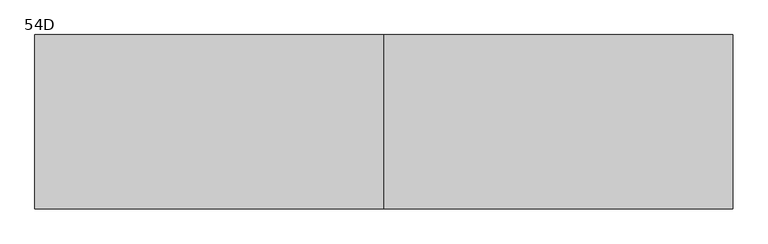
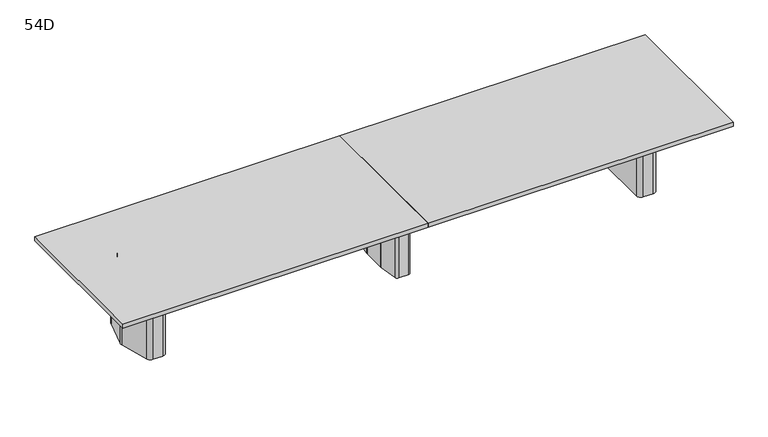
"""IFC4 building model written with IfcOpenShell, lengths in millimetres: furniture geometry, Coalesse_AM_Table_Conference_ETable2_Rectangular_18ft_ThreeBase : 54D."""

from ifc_helpers import new_model, si_unit, frame, origin, place, context, project, spatial, polyline, circle_curve, outline, extrude, source, transform, mapped, element, save
from ifc_brep_helpers import plane_surface, cylinder_surface, revolved_surface, advanced_brep


def furniture_54d_28b8f98d(model_context):
    return source(origin(), model_context, "Body", "SolidModel", [
        advanced_brep(
        [(35.71875, 206.375, 3.175), (10.31875, 231.775, 3.175), (-10.31875, 231.775, 3.175), (-35.71875, 206.375, 3.175), (-35.71875, -206.375, 3.175), (-10.31875, -231.775, 3.175), (10.31875, -231.775, 3.175), (35.71875, -206.375, 3.175), (-61.11875, 206.375, 0.0), (-10.31875, 257.175, 0.0), (10.31875, 257.175, 0.0), (61.11875, 206.375, 0.0), (61.11875, -206.375, 0.0), (10.31875, -257.175, 0.0), (-10.31875, -257.175, 0.0), (-61.11875, -206.375, 0.0), (-61.11875, -206.375, 3.175), (-61.11875, 206.375, 3.175), (-10.31875, -257.175, 3.175), (10.31875, -257.175, 3.175), (61.11875, -206.375, 3.175), (61.11875, 206.375, 3.175), (10.31875, 257.175, 3.175), (-10.31875, 257.175, 3.175), (-92.6215974, 106.2976848, 698.5), (-92.86875, 102.7629613, 698.5), (-92.86875, -102.7629613, 698.5), (-92.6215974, -106.2976848, 698.5), (-67.7988375, -282.9347235, 698.5), (-42.6459902, -304.8, 698.5), (42.6459902, -304.8, 698.5), (67.7988375, -282.9347235, 698.5), (92.6215974, -106.2976848, 698.5), (92.86875, -102.7629613, 698.5), (92.86875, 102.7629613, 698.5), (92.6215974, 106.2976848, 698.5), (67.7988375, 282.9347235, 698.5), (42.6459902, 304.8, 698.5), (-42.6459902, 304.8, 698.5), (-67.7988375, 282.9347235, 698.5), (10.31875, 231.775, 698.5), (35.71875, 206.375, 698.5), (35.71875, -206.375, 698.5), (10.31875, -231.775, 698.5), (-10.31875, -231.775, 698.5), (-35.71875, -206.375, 698.5), (-35.71875, 206.375, 698.5), (-10.31875, 231.775, 698.5), (-92.6215974, 106.2976848, 3.175), (-67.7988375, 282.9347235, 3.175), (-42.6459902, 304.8, 3.175), (42.6459902, 304.8, 3.175), (67.7988375, 282.9347235, 3.175), (92.6215974, 106.2976848, 3.175), (92.86875, 102.7629613, 3.175), (92.86875, -102.7629613, 3.175), (92.6215974, -106.2976848, 3.175), (67.7988375, -282.9347235, 3.175), (42.6459902, -304.8, 3.175), (-42.6459902, -304.8, 3.175), (-67.7988375, -282.9347235, 3.175), (-92.6215974, -106.2976848, 3.175), (-92.86875, -102.7629613, 3.175), (-92.86875, 102.7629613, 3.175)],
        [
            (0, 1, circle_curve(frame((10.31875, 206.375, 3.175), z_axis=(0.0, 0.0, 1.0), x_axis=(1.0, 0.0, 0.0)), 25.4)),
            (1, 2),
            (2, 3, circle_curve(frame((-10.31875, 206.375, 3.175), z_axis=(0.0, 0.0, 1.0), x_axis=(1.0, 0.0, 0.0)), 25.4)),
            (3, 4),
            (4, 5, circle_curve(frame((-10.31875, -206.375, 3.175), z_axis=(0.0, 0.0, 1.0), x_axis=(1.0, 0.0, 0.0)), 25.4)),
            (5, 6),
            (6, 7, circle_curve(frame((10.31875, -206.375, 3.175), z_axis=(0.0, 0.0, 1.0), x_axis=(1.0, 0.0, 0.0)), 25.4)),
            (7, 0),
            (8, 9, circle_curve(frame((-10.31875, 206.375, 0.0), z_axis=(0.0, 0.0, -1.0), x_axis=(1.0, 0.0, 0.0)), 50.8)),
            (9, 10),
            (10, 11, circle_curve(frame((10.31875, 206.375, 0.0), z_axis=(0.0, 0.0, -1.0), x_axis=(1.0, 0.0, 0.0)), 50.8)),
            (11, 12),
            (12, 13, circle_curve(frame((10.31875, -206.375, 0.0), z_axis=(0.0, 0.0, -1.0), x_axis=(1.0, 0.0, 0.0)), 50.8)),
            (13, 14),
            (14, 15, circle_curve(frame((-10.31875, -206.375, 0.0), z_axis=(0.0, 0.0, -1.0), x_axis=(1.0, 0.0, 0.0)), 50.8)),
            (15, 8),
            (15, 16),
            (16, 17),
            (17, 8),
            (14, 18),
            (18, 16, circle_curve(frame((-10.31875, -206.375, 3.175), z_axis=(0.0, 0.0, -1.0), x_axis=(1.0, 0.0, 0.0)), 50.8)),
            (13, 19),
            (19, 18),
            (12, 20),
            (20, 19, circle_curve(frame((10.31875, -206.375, 3.175), z_axis=(0.0, 0.0, -1.0), x_axis=(1.0, 0.0, 0.0)), 50.8)),
            (11, 21),
            (21, 20),
            (10, 22),
            (22, 21, circle_curve(frame((10.31875, 206.375, 3.175), z_axis=(0.0, 0.0, -1.0), x_axis=(1.0, 0.0, 0.0)), 50.8)),
            (9, 23),
            (23, 22),
            (17, 23, circle_curve(frame((-10.31875, 206.375, 3.175), z_axis=(0.0, 0.0, -1.0), x_axis=(1.0, 0.0, 0.0)), 50.8)),
            (24, 25, circle_curve(frame((-67.46875, 102.7629613, 698.5), z_axis=(0.0, 0.0, 1.0), x_axis=(1.0, 0.0, 0.0)), 25.4)),
            (25, 26),
            (26, 27, circle_curve(frame((-67.46875, -102.7629613, 698.5), z_axis=(0.0, 0.0, 1.0), x_axis=(1.0, 0.0, 0.0)), 25.4)),
            (27, 28),
            (28, 29, circle_curve(frame((-42.6459902, -279.4, 698.5), z_axis=(0.0, 0.0, 1.0), x_axis=(1.0, 0.0, 0.0)), 25.4)),
            (29, 30),
            (30, 31, circle_curve(frame((42.6459902, -279.4, 698.5), z_axis=(0.0, 0.0, 1.0), x_axis=(1.0, 0.0, 0.0)), 25.4)),
            (31, 32),
            (32, 33, circle_curve(frame((67.46875, -102.7629613, 698.5), z_axis=(0.0, 0.0, 1.0), x_axis=(1.0, 0.0, 0.0)), 25.4)),
            (33, 34),
            (34, 35, circle_curve(frame((67.46875, 102.7629613, 698.5), z_axis=(0.0, 0.0, 1.0), x_axis=(1.0, 0.0, 0.0)), 25.4)),
            (35, 36),
            (36, 37, circle_curve(frame((42.6459902, 279.4, 698.5), z_axis=(0.0, 0.0, 1.0), x_axis=(1.0, 0.0, 0.0)), 25.4)),
            (37, 38),
            (38, 39, circle_curve(frame((-42.6459902, 279.4, 698.5), z_axis=(0.0, 0.0, 1.0), x_axis=(1.0, 0.0, 0.0)), 25.4)),
            (39, 24),
            (40, 41, circle_curve(frame((10.31875, 206.375, 698.5), z_axis=(0.0, 0.0, -1.0), x_axis=(1.0, 0.0, 0.0)), 25.4)),
            (41, 42),
            (42, 43, circle_curve(frame((10.31875, -206.375, 698.5), z_axis=(0.0, 0.0, -1.0), x_axis=(1.0, 0.0, 0.0)), 25.4)),
            (43, 44),
            (44, 45, circle_curve(frame((-10.31875, -206.375, 698.5), z_axis=(0.0, 0.0, -1.0), x_axis=(1.0, 0.0, 0.0)), 25.4)),
            (45, 46),
            (46, 47, circle_curve(frame((-10.31875, 206.375, 698.5), z_axis=(0.0, 0.0, -1.0), x_axis=(1.0, 0.0, 0.0)), 25.4)),
            (47, 40),
            (48, 49),
            (49, 50, circle_curve(frame((-42.6459902, 279.4, 3.175), z_axis=(0.0, 0.0, -1.0), x_axis=(1.0, 0.0, 0.0)), 25.4)),
            (50, 51),
            (51, 52, circle_curve(frame((42.6459902, 279.4, 3.175), z_axis=(0.0, 0.0, -1.0), x_axis=(1.0, 0.0, 0.0)), 25.4)),
            (52, 53),
            (53, 54, circle_curve(frame((67.46875, 102.7629613, 3.175), z_axis=(0.0, 0.0, -1.0), x_axis=(1.0, 0.0, 0.0)), 25.4)),
            (54, 55),
            (55, 56, circle_curve(frame((67.46875, -102.7629613, 3.175), z_axis=(0.0, 0.0, -1.0), x_axis=(1.0, 0.0, 0.0)), 25.4)),
            (56, 57),
            (57, 58, circle_curve(frame((42.6459902, -279.4, 3.175), z_axis=(0.0, 0.0, -1.0), x_axis=(1.0, 0.0, 0.0)), 25.4)),
            (58, 59),
            (59, 60, circle_curve(frame((-42.6459902, -279.4, 3.175), z_axis=(0.0, 0.0, -1.0), x_axis=(1.0, 0.0, 0.0)), 25.4)),
            (60, 61),
            (61, 62, circle_curve(frame((-67.46875, -102.7629613, 3.175), z_axis=(0.0, 0.0, -1.0), x_axis=(1.0, 0.0, 0.0)), 25.4)),
            (62, 63),
            (63, 48, circle_curve(frame((-67.46875, 102.7629613, 3.175), z_axis=(0.0, 0.0, -1.0), x_axis=(1.0, 0.0, 0.0)), 25.4)),
            (24, 48),
            (63, 25),
            (62, 26),
            (61, 27),
            (60, 28),
            (59, 29),
            (58, 30),
            (57, 31),
            (56, 32),
            (55, 33),
            (54, 34),
            (53, 35),
            (52, 36),
            (51, 37),
            (50, 38),
            (49, 39),
            (40, 1),
            (0, 41),
            (7, 42),
            (6, 43),
            (5, 44),
            (4, 45),
            (3, 46),
            (2, 47),
        ],
        [
            plane_surface(frame((-61.11875, -206.375, 3.175), z_axis=(0.0, 0.0, 1.0), x_axis=(0.0, -1.0, 0.0))),
            plane_surface(frame((-61.11875, -206.375, 0.0), z_axis=(0.0, 0.0, -1.0), x_axis=(0.0, 1.0, 0.0))),
            plane_surface(frame((-61.11875, 206.375, 3.175), z_axis=(-1.0, 0.0, 0.0), x_axis=(0.0, 0.0, -1.0))),
            cylinder_surface(frame((-10.31875, -206.375, 0.0), z_axis=(0.0, 0.0, 1.0), x_axis=(1.0, 0.0, 0.0)), 50.8),
            plane_surface(frame((-10.31875, -257.175, 3.175), z_axis=(0.0, -1.0, 0.0), x_axis=(0.0, 0.0, -1.0))),
            cylinder_surface(frame((10.31875, -206.375, 0.0), z_axis=(0.0, 0.0, 1.0), x_axis=(1.0, 0.0, 0.0)), 50.8),
            plane_surface(frame((61.11875, -206.375, 3.175), z_axis=(1.0, 0.0, 0.0), x_axis=(0.0, 0.0, -1.0))),
            cylinder_surface(frame((10.31875, 206.375, 0.0), z_axis=(0.0, 0.0, 1.0), x_axis=(1.0, 0.0, 0.0)), 50.8),
            plane_surface(frame((10.31875, 257.175, 3.175), z_axis=(0.0, 1.0, 0.0), x_axis=(0.0, 0.0, -1.0))),
            cylinder_surface(frame((-10.31875, 206.375, 0.0), z_axis=(0.0, 0.0, 1.0), x_axis=(1.0, 0.0, 0.0)), 50.8),
            plane_surface(frame((-42.06875, 102.7629613, 698.5), z_axis=(0.0, 0.0, 1.0), x_axis=(0.0, 1.0, 0.0))),
            plane_surface(frame((-42.06875, 102.7629613, 3.175), z_axis=(0.0, 0.0, -1.0), x_axis=(0.0, -1.0, 0.0))),
            cylinder_surface(frame((-67.46875, 102.7629613, 3.175), z_axis=(0.0, 0.0, 1.0), x_axis=(1.0, 0.0, 0.0)), 25.4),
            plane_surface(frame((-92.86875, 102.7629613, 698.5), z_axis=(-1.0, 0.0, 0.0), x_axis=(0.0, 0.0, -1.0))),
            cylinder_surface(frame((-67.46875, -102.7629613, 3.175), z_axis=(0.0, 0.0, 1.0), x_axis=(1.0, 0.0, 0.0)), 25.4),
            plane_surface(frame((-92.6215974, -106.2976848, 698.5), z_axis=(-0.9902695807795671, -0.13916234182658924, 0.0), x_axis=(0.0, 0.0, -1.0))),
            cylinder_surface(frame((-42.6459902, -279.4, 3.175), z_axis=(0.0, 0.0, 1.0), x_axis=(1.0, 0.0, 0.0)), 25.4),
            plane_surface(frame((-42.6459902, -304.8, 698.5), z_axis=(0.0, -1.0, 0.0), x_axis=(0.0, 0.0, -1.0))),
            cylinder_surface(frame((42.6459902, -279.4, 3.175), z_axis=(0.0, 0.0, 1.0), x_axis=(1.0, 0.0, 0.0)), 25.4),
            plane_surface(frame((67.7988375, -282.9347235, 698.5), z_axis=(0.9902695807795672, -0.13916234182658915, 0.0), x_axis=(0.0, 0.0, -1.0))),
            cylinder_surface(frame((67.46875, -102.7629613, 3.175), z_axis=(0.0, 0.0, 1.0), x_axis=(1.0, 0.0, 0.0)), 25.4),
            plane_surface(frame((92.86875, -102.7629613, 698.5), z_axis=(1.0, 0.0, 0.0), x_axis=(0.0, 0.0, -1.0))),
            cylinder_surface(frame((67.46875, 102.7629613, 3.175), z_axis=(0.0, 0.0, 1.0), x_axis=(1.0, 0.0, 0.0)), 25.4),
            plane_surface(frame((92.6215974, 106.2976848, 698.5), z_axis=(0.9902695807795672, 0.1391623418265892, 0.0), x_axis=(0.0, 0.0, -1.0))),
            cylinder_surface(frame((42.6459902, 279.4, 3.175), z_axis=(0.0, 0.0, 1.0), x_axis=(1.0, 0.0, 0.0)), 25.4),
            plane_surface(frame((42.6459902, 304.8, 698.5), z_axis=(0.0, 1.0, 0.0), x_axis=(0.0, 0.0, -1.0))),
            cylinder_surface(frame((-42.6459902, 279.4, 3.175), z_axis=(0.0, 0.0, 1.0), x_axis=(1.0, 0.0, 0.0)), 25.4),
            plane_surface(frame((-67.7988375, 282.9347235, 698.5), z_axis=(-0.9902695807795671, 0.13916234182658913, 0.0), x_axis=(0.0, 0.0, -1.0))),
            revolved_surface(polyline([(35.71875, 206.375, 3.175), (35.71875, 206.375, 698.5)]), (10.31875, 206.375, 0.0), (0.0, 0.0, -1.0)),
            plane_surface(frame((35.71875, 206.375, 698.5), z_axis=(-1.0, 0.0, 0.0), x_axis=(0.0, 0.0, -1.0))),
            revolved_surface(polyline([(35.71875, -206.375, 3.175), (35.71875, -206.375, 698.5)]), (10.31875, -206.375, 0.0), (0.0, 0.0, -1.0)),
            plane_surface(frame((10.31875, -231.775, 698.5), z_axis=(0.0, 1.0, 0.0), x_axis=(0.0, 0.0, -1.0))),
            revolved_surface(polyline([(15.081249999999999, -206.375, 3.175), (15.081249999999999, -206.375, 698.5)]), (-10.31875, -206.375, 0.0), (0.0, 0.0, -1.0)),
            plane_surface(frame((-35.71875, -206.375, 698.5), z_axis=(1.0, 0.0, 0.0), x_axis=(0.0, 0.0, -1.0))),
            revolved_surface(polyline([(15.081249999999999, 206.375, 3.175), (15.081249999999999, 206.375, 698.5)]), (-10.31875, 206.375, 0.0), (0.0, 0.0, -1.0)),
            plane_surface(frame((-10.31875, 231.775, 698.5), z_axis=(0.0, -1.0, 0.0), x_axis=(0.0, 0.0, -1.0))),
        ],
        [
            (0, [[1, 2, 3, 4, 5, 6, 7, 8]]),
            (1, [[9, 10, 11, 12, 13, 14, 15, 16]]),
            (2, [[-16, 17, 18, 19]]),
            (3, [[-15, 20, 21, -17]]),
            (4, [[-14, 22, 23, -20]]),
            (5, [[-13, 24, 25, -22]]),
            (6, [[-12, 26, 27, -24]]),
            (7, [[-11, 28, 29, -26]]),
            (8, [[-10, 30, 31, -28]]),
            (9, [[-9, -19, 32, -30]]),
            (10, [[33, 34, 35, 36, 37, 38, 39, 40, 41, 42, 43, 44, 45, 46, 47, 48], [49, 50, 51, 52, 53, 54, 55, 56]]),
            (11, [[57, 58, 59, 60, 61, 62, 63, 64, 65, 66, 67, 68, 69, 70, 71, 72], [-18, -21, -23, -25, -27, -29, -31, -32]]),
            (12, [[-33, 73, -72, 74]]),
            (13, [[-34, -74, -71, 75]]),
            (14, [[-35, -75, -70, 76]]),
            (15, [[-36, -76, -69, 77]]),
            (16, [[-37, -77, -68, 78]]),
            (17, [[-38, -78, -67, 79]]),
            (18, [[-39, -79, -66, 80]]),
            (19, [[-40, -80, -65, 81]]),
            (20, [[-41, -81, -64, 82]]),
            (21, [[-42, -82, -63, 83]]),
            (22, [[-43, -83, -62, 84]]),
            (23, [[-44, -84, -61, 85]]),
            (24, [[-45, -85, -60, 86]]),
            (25, [[-46, -86, -59, 87]]),
            (26, [[-47, -87, -58, 88]]),
            (27, [[-48, -88, -57, -73]]),
            (28, [[-49, 89, -1, 90]]),
            (29, [[-50, -90, -8, 91]]),
            (30, [[-51, -91, -7, 92]]),
            (31, [[-52, -92, -6, 93]]),
            (32, [[-53, -93, -5, 94]]),
            (33, [[-54, -94, -4, 95]]),
            (34, [[-55, -95, -3, 96]]),
            (35, [[-56, -96, -2, -89]]),
        ],
    ),
        advanced_brep(
        [(2284.624548, 274.2093613, 698.5), (2244.7579246, 304.8, 698.5), (2155.825, 304.8, 698.5), (2114.55, 263.525, 698.5), (2114.55, -263.525, 698.5), (2155.825, -304.8, 698.5), (2244.7579246, -304.8, 698.5), (2284.624548, -274.2093613, 698.5), (2355.2503901, -10.6333708, 698.5), (2355.2503901, 10.6333708, 698.5), (2152.65, -206.375, 698.5), (2152.65, 206.375, 698.5), (2178.05, 231.775, 698.5), (2237.0608422, 231.775, 698.5), (2261.595338, 212.9490792, 698.5), (2300.2875, 68.54974, 698.5), (2300.2875, -68.54974, 698.5), (2261.595338, -212.9490792, 698.5), (2237.0608422, -231.775, 698.5), (2178.05, -231.775, 698.5), (2284.624548, 274.2093613, 3.175), (2355.2503901, 10.6333708, 3.175), (2355.2503901, -10.6333708, 3.175), (2284.624548, -274.2093613, 3.175), (2244.7579246, -304.8, 3.175), (2155.825, -304.8, 3.175), (2114.55, -263.525, 3.175), (2114.55, 263.525, 3.175), (2155.825, 304.8, 3.175), (2244.7579246, 304.8, 3.175), (2273.8625859, 216.2361187, 3.175), (2237.0608422, 244.475, 3.175), (2178.05, 244.475, 3.175), (2139.95, 206.375, 3.175), (2139.95, -206.375, 3.175), (2178.05, -244.475, 3.175), (2237.0608422, -244.475, 3.175), (2273.8625859, -216.2361187, 3.175), (2312.9875, -70.2217466, 3.175), (2312.9875, 70.2217466, 3.175), (2178.05, -231.775, 3.175), (2152.65, -206.375, 3.175), (2237.0608422, -231.775, 3.175), (2261.595338, -212.9490792, 3.175), (2300.2875, -68.54974, 3.175), (2300.2875, 68.54974, 3.175), (2261.595338, 212.9490792, 3.175), (2237.0608422, 231.775, 3.175), (2178.05, 231.775, 3.175), (2152.65, 206.375, 3.175), (2273.8625859, 216.2361187, 0.0), (2312.9875, 70.2217466, 0.0), (2312.9875, -70.2217466, 0.0), (2273.8625859, -216.2361187, 0.0), (2237.0608422, -244.475, 0.0), (2178.05, -244.475, 0.0), (2139.95, -206.375, 0.0), (2139.95, 206.375, 0.0), (2178.05, 244.475, 0.0), (2237.0608422, 244.475, 0.0)],
        [
            (0, 1, circle_curve(frame((2244.7579246, 263.5270004, 698.5), z_axis=(0.0, 0.0, 1.0), x_axis=(-1.0, 0.0, 0.0)), 41.2729996)),
            (1, 2),
            (2, 3, circle_curve(frame((2155.825, 263.525, 698.5), z_axis=(0.0, 0.0, 1.0), x_axis=(-1.0, 0.0, 0.0)), 41.275)),
            (3, 4),
            (4, 5, circle_curve(frame((2155.825, -263.525, 698.5), z_axis=(0.0, 0.0, 1.0), x_axis=(-1.0, 0.0, 0.0)), 41.275)),
            (5, 6),
            (6, 7, circle_curve(frame((2244.7579246, -263.5270004, 698.5), z_axis=(0.0, 0.0, 1.0), x_axis=(-1.0, 0.0, 0.0)), 41.2729996)),
            (7, 8),
            (8, 9, circle_curve(frame((2315.5665979, 0.0, 698.5), z_axis=(0.0, 0.0, 1.0), x_axis=(-1.0, 0.0, 0.0)), 41.0837187)),
            (9, 0),
            (10, 11),
            (11, 12, circle_curve(frame((2178.05, 206.375, 698.5), z_axis=(0.0, 0.0, -1.0), x_axis=(-1.0, 0.0, 0.0)), 25.4)),
            (12, 13),
            (13, 14, circle_curve(frame((2237.0608422, 206.375, 698.5), z_axis=(0.0, 0.0, -1.0), x_axis=(-1.0, 0.0, 0.0)), 25.4)),
            (14, 15),
            (15, 16),
            (16, 17),
            (17, 18, circle_curve(frame((2237.0608422, -206.375, 698.5), z_axis=(0.0, 0.0, -1.0), x_axis=(-1.0, 0.0, 0.0)), 25.4)),
            (18, 19),
            (19, 10, circle_curve(frame((2178.05, -206.375, 698.5), z_axis=(0.0, 0.0, -1.0), x_axis=(-1.0, 0.0, 0.0)), 25.4)),
            (20, 21),
            (21, 22, circle_curve(frame((2315.5665979, 0.0, 3.175), z_axis=(0.0, 0.0, -1.0), x_axis=(-1.0, 0.0, 0.0)), 41.0837187)),
            (22, 23),
            (23, 24, circle_curve(frame((2244.7579246, -263.5270004, 3.175), z_axis=(0.0, 0.0, -1.0), x_axis=(-1.0, 0.0, 0.0)), 41.2729996)),
            (24, 25),
            (25, 26, circle_curve(frame((2155.825, -263.525, 3.175), z_axis=(0.0, 0.0, -1.0), x_axis=(-1.0, 0.0, 0.0)), 41.275)),
            (26, 27),
            (27, 28, circle_curve(frame((2155.825, 263.525, 3.175), z_axis=(0.0, 0.0, -1.0), x_axis=(-1.0, 0.0, 0.0)), 41.275)),
            (28, 29),
            (29, 20, circle_curve(frame((2244.7579246, 263.5270004, 3.175), z_axis=(0.0, 0.0, -1.0), x_axis=(-1.0, 0.0, 0.0)), 41.2729996)),
            (30, 31, circle_curve(frame((2237.0608422, 206.375, 3.175), z_axis=(0.0, 0.0, 1.0), x_axis=(-1.0, 0.0, 0.0)), 38.1)),
            (31, 32),
            (32, 33, circle_curve(frame((2178.05, 206.375, 3.175), z_axis=(0.0, 0.0, 1.0), x_axis=(-1.0, 0.0, 0.0)), 38.1)),
            (33, 34),
            (34, 35, circle_curve(frame((2178.05, -206.375, 3.175), z_axis=(0.0, 0.0, 1.0), x_axis=(-1.0, 0.0, 0.0)), 38.1)),
            (35, 36),
            (36, 37, circle_curve(frame((2237.0608422, -206.375, 3.175), z_axis=(0.0, 0.0, 1.0), x_axis=(-1.0, 0.0, 0.0)), 38.1)),
            (37, 38),
            (38, 39),
            (39, 30),
            (9, 21),
            (20, 0),
            (8, 22),
            (7, 23),
            (6, 24),
            (5, 25),
            (4, 26),
            (3, 27),
            (2, 28),
            (1, 29),
            (19, 40),
            (40, 41, circle_curve(frame((2178.05, -206.375, 3.175), z_axis=(0.0, 0.0, -1.0), x_axis=(-1.0, 0.0, 0.0)), 25.4)),
            (41, 10),
            (18, 42),
            (42, 40),
            (17, 43),
            (43, 42, circle_curve(frame((2237.0608422, -206.375, 3.175), z_axis=(0.0, 0.0, -1.0), x_axis=(-1.0, 0.0, 0.0)), 25.4)),
            (16, 44),
            (44, 43),
            (15, 45),
            (45, 44),
            (14, 46),
            (46, 45),
            (13, 47),
            (47, 46, circle_curve(frame((2237.0608422, 206.375, 3.175), z_axis=(0.0, 0.0, -1.0), x_axis=(-1.0, 0.0, 0.0)), 25.4)),
            (12, 48),
            (48, 47),
            (11, 49),
            (49, 48, circle_curve(frame((2178.05, 206.375, 3.175), z_axis=(0.0, 0.0, -1.0), x_axis=(-1.0, 0.0, 0.0)), 25.4)),
            (41, 49),
            (50, 51),
            (51, 52),
            (52, 53),
            (53, 54, circle_curve(frame((2237.0608422, -206.375, 0.0), z_axis=(0.0, 0.0, -1.0), x_axis=(-1.0, 0.0, 0.0)), 38.1)),
            (54, 55),
            (55, 56, circle_curve(frame((2178.05, -206.375, 0.0), z_axis=(0.0, 0.0, -1.0), x_axis=(-1.0, 0.0, 0.0)), 38.1)),
            (56, 57),
            (57, 58, circle_curve(frame((2178.05, 206.375, 0.0), z_axis=(0.0, 0.0, -1.0), x_axis=(-1.0, 0.0, 0.0)), 38.1)),
            (58, 59),
            (59, 50, circle_curve(frame((2237.0608422, 206.375, 0.0), z_axis=(0.0, 0.0, -1.0), x_axis=(-1.0, 0.0, 0.0)), 38.1)),
            (50, 30),
            (39, 51),
            (38, 52),
            (37, 53),
            (36, 54),
            (35, 55),
            (34, 56),
            (33, 57),
            (32, 58),
            (31, 59),
        ],
        [
            plane_surface(frame((2355.2374275, 10.6817473, 698.5), z_axis=(0.0, 0.0, 1.0000000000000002), x_axis=(0.25882201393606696, -0.9659250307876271, 0.0))),
            plane_surface(frame((2355.2374275, 10.6817473, 3.175), z_axis=(0.0, 0.0, -1.0000000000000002), x_axis=(-0.25882201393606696, 0.9659250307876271, 0.0))),
            plane_surface(frame((2284.624548, 274.2093613, 698.5), z_axis=(0.9659250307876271, 0.25882201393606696, 0.0), x_axis=(0.0, 0.0, -1.0))),
            cylinder_surface(frame((2315.5665979, 0.0, 3.175), z_axis=(0.0, 0.0, 1.0), x_axis=(-1.0, 0.0, 0.0)), 41.0837187),
            plane_surface(frame((2355.2503901, -10.6333708, 698.5), z_axis=(0.9659250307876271, -0.2588220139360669, 0.0), x_axis=(0.0, 0.0, -1.0))),
            cylinder_surface(frame((2244.7579246, -263.5270004, 3.175), z_axis=(0.0, 0.0, 1.0), x_axis=(-1.0, 0.0, 0.0)), 41.2729996),
            plane_surface(frame((2244.7579246, -304.8, 698.5), z_axis=(0.0, -1.0, 0.0), x_axis=(0.0, 0.0, -1.0))),
            cylinder_surface(frame((2155.825, -263.525, 3.175), z_axis=(0.0, 0.0, 1.0), x_axis=(-1.0, 0.0, 0.0)), 41.275),
            plane_surface(frame((2114.55, -263.525, 698.5), z_axis=(-1.0, 0.0, 0.0), x_axis=(0.0, 0.0, -1.0))),
            cylinder_surface(frame((2155.825, 263.525, 3.175), z_axis=(0.0, 0.0, 1.0), x_axis=(-1.0, 0.0, 0.0)), 41.275),
            plane_surface(frame((2155.825, 304.8, 698.5), z_axis=(0.0, 1.0, 0.0), x_axis=(0.0, 0.0, -1.0))),
            cylinder_surface(frame((2244.7579246, 263.5270004, 3.175), z_axis=(0.0, 0.0, 1.0), x_axis=(-1.0, 0.0, 0.0)), 41.2729996),
            revolved_surface(polyline([(2152.65, -206.375, 3.175), (2152.65, -206.375, 698.5)]), (2178.05, -206.375, 0.0), (0.0, 0.0, -1.0)),
            plane_surface(frame((2178.05, -231.775, 698.5), z_axis=(0.0, 1.0, 0.0), x_axis=(0.0, 0.0, -1.0))),
            revolved_surface(polyline([(2211.6608422, -206.375, 3.175), (2211.6608422, -206.375, 698.5)]), (2237.0608422, -206.375, 0.0), (0.0, 0.0, -1.0)),
            plane_surface(frame((2261.595338, -212.9490792, 698.5), z_axis=(-0.9659250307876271, 0.2588220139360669, 0.0), x_axis=(0.0, 0.0, -1.0))),
            plane_surface(frame((2300.2875, -68.54974, 698.5), z_axis=(-1.0, 0.0, 0.0), x_axis=(0.0, 0.0, -1.0))),
            plane_surface(frame((2300.2875, 68.54974, 698.5), z_axis=(-0.9659250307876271, -0.25882201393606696, 0.0), x_axis=(0.0, 0.0, -1.0))),
            revolved_surface(polyline([(2211.6608422, 206.375, 3.175), (2211.6608422, 206.375, 698.5)]), (2237.0608422, 206.375, 0.0), (0.0, 0.0, -1.0)),
            plane_surface(frame((2237.0608422, 231.775, 698.5), z_axis=(0.0, -1.0, 0.0), x_axis=(0.0, 0.0, -1.0))),
            revolved_surface(polyline([(2152.65, 206.375, 3.175), (2152.65, 206.375, 698.5)]), (2178.05, 206.375, 0.0), (0.0, 0.0, -1.0)),
            plane_surface(frame((2152.65, 206.375, 698.5), z_axis=(1.0, 0.0, 0.0), x_axis=(0.0, 0.0, -1.0))),
            plane_surface(frame((2312.5547479, 71.8367796, 3.175), z_axis=(0.0, 0.0, 1.0), x_axis=(0.25882201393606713, -0.965925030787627, 0.0))),
            plane_surface(frame((2312.5547479, 71.8367796, 0.0), z_axis=(0.0, 0.0, -1.0), x_axis=(-0.25882201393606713, 0.965925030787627, 0.0))),
            plane_surface(frame((2273.8625859, 216.2361187, 3.175), z_axis=(0.965925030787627, 0.25882201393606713, 0.0), x_axis=(0.0, 0.0, -1.0))),
            plane_surface(frame((2312.9875, 70.2217466, 3.175), z_axis=(1.0, 0.0, 0.0), x_axis=(0.0, 0.0, -1.0))),
            plane_surface(frame((2312.9875, -70.2217466, 3.175), z_axis=(0.9659250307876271, -0.2588220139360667, 0.0), x_axis=(0.0, 0.0, -1.0))),
            cylinder_surface(frame((2237.0608422, -206.375, 0.0), z_axis=(0.0, 0.0, 1.0), x_axis=(-1.0, 0.0, 0.0)), 38.1),
            plane_surface(frame((2237.0608422, -244.475, 3.175), z_axis=(0.0, -1.0, 0.0), x_axis=(0.0, 0.0, -1.0))),
            cylinder_surface(frame((2178.05, -206.375, 0.0), z_axis=(0.0, 0.0, 1.0), x_axis=(-1.0, 0.0, 0.0)), 38.1),
            plane_surface(frame((2139.95, -206.375, 3.175), z_axis=(-1.0, 0.0, 0.0), x_axis=(0.0, 0.0, -1.0))),
            cylinder_surface(frame((2178.05, 206.375, 0.0), z_axis=(0.0, 0.0, 1.0), x_axis=(-1.0, 0.0, 0.0)), 38.1),
            plane_surface(frame((2178.05, 244.475, 3.175), z_axis=(0.0, 1.0, 0.0), x_axis=(0.0, 0.0, -1.0))),
            cylinder_surface(frame((2237.0608422, 206.375, 0.0), z_axis=(0.0, 0.0, 1.0), x_axis=(-1.0, 0.0, 0.0)), 38.1),
        ],
        [
            (0, [[1, 2, 3, 4, 5, 6, 7, 8, 9, 10], [11, 12, 13, 14, 15, 16, 17, 18, 19, 20]]),
            (1, [[21, 22, 23, 24, 25, 26, 27, 28, 29, 30], [31, 32, 33, 34, 35, 36, 37, 38, 39, 40]]),
            (2, [[41, -21, 42, -10]]),
            (3, [[43, -22, -41, -9]]),
            (4, [[44, -23, -43, -8]]),
            (5, [[45, -24, -44, -7]]),
            (6, [[46, -25, -45, -6]]),
            (7, [[47, -26, -46, -5]]),
            (8, [[48, -27, -47, -4]]),
            (9, [[49, -28, -48, -3]]),
            (10, [[50, -29, -49, -2]]),
            (11, [[-42, -30, -50, -1]]),
            (12, [[51, 52, 53, -20]]),
            (13, [[54, 55, -51, -19]]),
            (14, [[56, 57, -54, -18]]),
            (15, [[58, 59, -56, -17]]),
            (16, [[60, 61, -58, -16]]),
            (17, [[62, 63, -60, -15]]),
            (18, [[64, 65, -62, -14]]),
            (19, [[66, 67, -64, -13]]),
            (20, [[68, 69, -66, -12]]),
            (21, [[-53, 70, -68, -11]]),
            (22, [[-55, -57, -59, -61, -63, -65, -67, -69, -70, -52]]),
            (23, [[71, 72, 73, 74, 75, 76, 77, 78, 79, 80]]),
            (24, [[81, -40, 82, -71]]),
            (25, [[-82, -39, 83, -72]]),
            (26, [[-83, -38, 84, -73]]),
            (27, [[-84, -37, 85, -74]]),
            (28, [[-85, -36, 86, -75]]),
            (29, [[-86, -35, 87, -76]]),
            (30, [[-87, -34, 88, -77]]),
            (31, [[-88, -33, 89, -78]]),
            (32, [[-89, -32, 90, -79]]),
            (33, [[-90, -31, -81, -80]]),
        ],
    ),
        advanced_brep(
        [(-2295.737048, 274.2093613, 698.5), (-2366.3628901, 10.6333708, 698.5), (-2366.3628901, -10.6333708, 698.5), (-2295.737048, -274.2093613, 698.5), (-2255.8704246, -304.8, 698.5), (-2166.9375, -304.8, 698.5), (-2125.6625, -263.525, 698.5), (-2125.6625, 263.525, 698.5), (-2166.9375, 304.8, 698.5), (-2255.8704246, 304.8, 698.5), (-2163.7625, -206.375, 698.5), (-2189.1625, -231.775, 698.5), (-2248.1733422, -231.775, 698.5), (-2272.707838, -212.9490792, 698.5), (-2311.4, -68.54974, 698.5), (-2311.4, 68.54974, 698.5), (-2272.707838, 212.9490792, 698.5), (-2248.1733422, 231.775, 698.5), (-2189.1625, 231.775, 698.5), (-2163.7625, 206.375, 698.5), (-2295.737048, 274.2093613, 3.175), (-2255.8704246, 304.8, 3.175), (-2166.9375, 304.8, 3.175), (-2125.6625, 263.525, 3.175), (-2125.6625, -263.525, 3.175), (-2166.9375, -304.8, 3.175), (-2255.8704246, -304.8, 3.175), (-2295.737048, -274.2093613, 3.175), (-2366.3628901, -10.6333708, 3.175), (-2366.3628901, 10.6333708, 3.175), (-2284.9750859, 216.2361187, 3.175), (-2324.1, 70.2217466, 3.175), (-2324.1, -70.2217466, 3.175), (-2284.9750859, -216.2361187, 3.175), (-2248.1733422, -244.475, 3.175), (-2189.1625, -244.475, 3.175), (-2151.0625, -206.375, 3.175), (-2151.0625, 206.375, 3.175), (-2189.1625, 244.475, 3.175), (-2248.1733422, 244.475, 3.175), (-2163.7625, -206.375, 3.175), (-2189.1625, -231.775, 3.175), (-2248.1733422, -231.775, 3.175), (-2272.707838, -212.9490792, 3.175), (-2311.4, -68.54974, 3.175), (-2311.4, 68.54974, 3.175), (-2272.707838, 212.9490792, 3.175), (-2248.1733422, 231.775, 3.175), (-2189.1625, 231.775, 3.175), (-2163.7625, 206.375, 3.175), (-2284.9750859, 216.2361187, 0.0), (-2248.1733422, 244.475, 0.0), (-2189.1625, 244.475, 0.0), (-2151.0625, 206.375, 0.0), (-2151.0625, -206.375, 0.0), (-2189.1625, -244.475, 0.0), (-2248.1733422, -244.475, 0.0), (-2284.9750859, -216.2361187, 0.0), (-2324.1, -70.2217466, 0.0), (-2324.1, 70.2217466, 0.0)],
        [
            (0, 1),
            (1, 2, circle_curve(frame((-2326.6790979, 0.0, 698.5), z_axis=(0.0, 0.0, 1.0), x_axis=(1.0, 0.0, 0.0)), 41.0837187)),
            (2, 3),
            (3, 4, circle_curve(frame((-2255.8704246, -263.5270004, 698.5), z_axis=(0.0, 0.0, 1.0), x_axis=(1.0, 0.0, 0.0)), 41.2729996)),
            (4, 5),
            (5, 6, circle_curve(frame((-2166.9375, -263.525, 698.5), z_axis=(0.0, 0.0, 1.0), x_axis=(1.0, 0.0, 0.0)), 41.275)),
            (6, 7),
            (7, 8, circle_curve(frame((-2166.9375, 263.525, 698.5), z_axis=(0.0, 0.0, 1.0), x_axis=(1.0, 0.0, 0.0)), 41.275)),
            (8, 9),
            (9, 0, circle_curve(frame((-2255.8704246, 263.5270004, 698.5), z_axis=(0.0, 0.0, 1.0), x_axis=(1.0, 0.0, 0.0)), 41.2729996)),
            (10, 11, circle_curve(frame((-2189.1625, -206.375, 698.5), z_axis=(0.0, 0.0, -1.0), x_axis=(1.0, 0.0, 0.0)), 25.4)),
            (11, 12),
            (12, 13, circle_curve(frame((-2248.1733422, -206.375, 698.5), z_axis=(0.0, 0.0, -1.0), x_axis=(1.0, 0.0, 0.0)), 25.4)),
            (13, 14),
            (14, 15),
            (15, 16),
            (16, 17, circle_curve(frame((-2248.1733422, 206.375, 698.5), z_axis=(0.0, 0.0, -1.0), x_axis=(1.0, 0.0, 0.0)), 25.4)),
            (17, 18),
            (18, 19, circle_curve(frame((-2189.1625, 206.375, 698.5), z_axis=(0.0, 0.0, -1.0), x_axis=(1.0, 0.0, 0.0)), 25.4)),
            (19, 10),
            (20, 21, circle_curve(frame((-2255.8704246, 263.5270004, 3.175), z_axis=(0.0, 0.0, -1.0), x_axis=(1.0, 0.0, 0.0)), 41.2729996)),
            (21, 22),
            (22, 23, circle_curve(frame((-2166.9375, 263.525, 3.175), z_axis=(0.0, 0.0, -1.0), x_axis=(1.0, 0.0, 0.0)), 41.275)),
            (23, 24),
            (24, 25, circle_curve(frame((-2166.9375, -263.525, 3.175), z_axis=(0.0, 0.0, -1.0), x_axis=(1.0, 0.0, 0.0)), 41.275)),
            (25, 26),
            (26, 27, circle_curve(frame((-2255.8704246, -263.5270004, 3.175), z_axis=(0.0, 0.0, -1.0), x_axis=(1.0, 0.0, 0.0)), 41.2729996)),
            (27, 28),
            (28, 29, circle_curve(frame((-2326.6790979, 0.0, 3.175), z_axis=(0.0, 0.0, -1.0), x_axis=(1.0, 0.0, 0.0)), 41.0837187)),
            (29, 20),
            (30, 31),
            (31, 32),
            (32, 33),
            (33, 34, circle_curve(frame((-2248.1733422, -206.375, 3.175), z_axis=(0.0, 0.0, 1.0), x_axis=(1.0, 0.0, 0.0)), 38.1)),
            (34, 35),
            (35, 36, circle_curve(frame((-2189.1625, -206.375, 3.175), z_axis=(0.0, 0.0, 1.0), x_axis=(1.0, 0.0, 0.0)), 38.1)),
            (36, 37),
            (37, 38, circle_curve(frame((-2189.1625, 206.375, 3.175), z_axis=(0.0, 0.0, 1.0), x_axis=(1.0, 0.0, 0.0)), 38.1)),
            (38, 39),
            (39, 30, circle_curve(frame((-2248.1733422, 206.375, 3.175), z_axis=(0.0, 0.0, 1.0), x_axis=(1.0, 0.0, 0.0)), 38.1)),
            (0, 20),
            (29, 1),
            (28, 2),
            (27, 3),
            (26, 4),
            (25, 5),
            (24, 6),
            (23, 7),
            (22, 8),
            (21, 9),
            (10, 40),
            (40, 41, circle_curve(frame((-2189.1625, -206.375, 3.175), z_axis=(0.0, 0.0, -1.0), x_axis=(1.0, 0.0, 0.0)), 25.4)),
            (41, 11),
            (41, 42),
            (42, 12),
            (42, 43, circle_curve(frame((-2248.1733422, -206.375, 3.175), z_axis=(0.0, 0.0, -1.0), x_axis=(1.0, 0.0, 0.0)), 25.4)),
            (43, 13),
            (43, 44),
            (44, 14),
            (44, 45),
            (45, 15),
            (45, 46),
            (46, 16),
            (46, 47, circle_curve(frame((-2248.1733422, 206.375, 3.175), z_axis=(0.0, 0.0, -1.0), x_axis=(1.0, 0.0, 0.0)), 25.4)),
            (47, 17),
            (47, 48),
            (48, 18),
            (48, 49, circle_curve(frame((-2189.1625, 206.375, 3.175), z_axis=(0.0, 0.0, -1.0), x_axis=(1.0, 0.0, 0.0)), 25.4)),
            (49, 19),
            (49, 40),
            (50, 51, circle_curve(frame((-2248.1733422, 206.375, 0.0), z_axis=(0.0, 0.0, -1.0), x_axis=(1.0, 0.0, 0.0)), 38.1)),
            (51, 52),
            (52, 53, circle_curve(frame((-2189.1625, 206.375, 0.0), z_axis=(0.0, 0.0, -1.0), x_axis=(1.0, 0.0, 0.0)), 38.1)),
            (53, 54),
            (54, 55, circle_curve(frame((-2189.1625, -206.375, 0.0), z_axis=(0.0, 0.0, -1.0), x_axis=(1.0, 0.0, 0.0)), 38.1)),
            (55, 56),
            (56, 57, circle_curve(frame((-2248.1733422, -206.375, 0.0), z_axis=(0.0, 0.0, -1.0), x_axis=(1.0, 0.0, 0.0)), 38.1)),
            (57, 58),
            (58, 59),
            (59, 50),
            (59, 31),
            (30, 50),
            (58, 32),
            (57, 33),
            (56, 34),
            (55, 35),
            (54, 36),
            (53, 37),
            (52, 38),
            (51, 39),
        ],
        [
            plane_surface(frame((-2366.3499275, 10.6817473, 698.5), z_axis=(0.0, 0.0, 1.0000000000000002), x_axis=(-0.25882201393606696, -0.9659250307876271, 0.0))),
            plane_surface(frame((-2366.3499275, 10.6817473, 3.175), z_axis=(0.0, 0.0, -1.0000000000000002), x_axis=(0.25882201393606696, 0.9659250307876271, 0.0))),
            plane_surface(frame((-2295.737048, 274.2093613, 698.5), z_axis=(-0.9659250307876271, 0.25882201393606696, 0.0), x_axis=(0.0, 0.0, -1.0))),
            cylinder_surface(frame((-2326.6790979, 0.0, 3.175), z_axis=(0.0, 0.0, 1.0), x_axis=(1.0, 0.0, 0.0)), 41.0837187),
            plane_surface(frame((-2366.3628901, -10.6333708, 698.5), z_axis=(-0.9659250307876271, -0.2588220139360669, 0.0), x_axis=(0.0, 0.0, -1.0))),
            cylinder_surface(frame((-2255.8704246, -263.5270004, 3.175), z_axis=(0.0, 0.0, 1.0), x_axis=(1.0, 0.0, 0.0)), 41.2729996),
            plane_surface(frame((-2255.8704246, -304.8, 698.5), z_axis=(0.0, -1.0, 0.0), x_axis=(0.0, 0.0, -1.0))),
            cylinder_surface(frame((-2166.9375, -263.525, 3.175), z_axis=(0.0, 0.0, 1.0), x_axis=(1.0, 0.0, 0.0)), 41.275),
            plane_surface(frame((-2125.6625, -263.525, 698.5), z_axis=(1.0, 0.0, 0.0), x_axis=(0.0, 0.0, -1.0))),
            cylinder_surface(frame((-2166.9375, 263.525, 3.175), z_axis=(0.0, 0.0, 1.0), x_axis=(1.0, 0.0, 0.0)), 41.275),
            plane_surface(frame((-2166.9375, 304.8, 698.5), z_axis=(0.0, 1.0, 0.0), x_axis=(0.0, 0.0, -1.0))),
            cylinder_surface(frame((-2255.8704246, 263.5270004, 3.175), z_axis=(0.0, 0.0, 1.0), x_axis=(1.0, 0.0, 0.0)), 41.2729996),
            revolved_surface(polyline([(-2163.7625, -206.375, 3.175), (-2163.7625, -206.375, 698.5)]), (-2189.1625, -206.375, 0.0), (0.0, 0.0, -1.0)),
            plane_surface(frame((-2189.1625, -231.775, 698.5), z_axis=(0.0, 1.0, 0.0), x_axis=(0.0, 0.0, -1.0))),
            revolved_surface(polyline([(-2222.7733422, -206.375, 3.175), (-2222.7733422, -206.375, 698.5)]), (-2248.1733422, -206.375, 0.0), (0.0, 0.0, -1.0)),
            plane_surface(frame((-2272.707838, -212.9490792, 698.5), z_axis=(0.9659250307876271, 0.2588220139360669, 0.0), x_axis=(0.0, 0.0, -1.0))),
            plane_surface(frame((-2311.4, -68.54974, 698.5), z_axis=(1.0, 0.0, 0.0), x_axis=(0.0, 0.0, -1.0))),
            plane_surface(frame((-2311.4, 68.54974, 698.5), z_axis=(0.9659250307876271, -0.25882201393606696, 0.0), x_axis=(0.0, 0.0, -1.0))),
            revolved_surface(polyline([(-2222.7733422, 206.375, 3.175), (-2222.7733422, 206.375, 698.5)]), (-2248.1733422, 206.375, 0.0), (0.0, 0.0, -1.0)),
            plane_surface(frame((-2248.1733422, 231.775, 698.5), z_axis=(0.0, -1.0, 0.0), x_axis=(0.0, 0.0, -1.0))),
            revolved_surface(polyline([(-2163.7625, 206.375, 3.175), (-2163.7625, 206.375, 698.5)]), (-2189.1625, 206.375, 0.0), (0.0, 0.0, -1.0)),
            plane_surface(frame((-2163.7625, 206.375, 698.5), z_axis=(-1.0, 0.0, 0.0), x_axis=(0.0, 0.0, -1.0))),
            plane_surface(frame((-2323.6672479, 71.8367796, 3.175), z_axis=(0.0, 0.0, 1.0), x_axis=(-0.25882201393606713, -0.965925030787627, 0.0))),
            plane_surface(frame((-2323.6672479, 71.8367796, 0.0), z_axis=(0.0, 0.0, -1.0), x_axis=(0.25882201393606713, 0.965925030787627, 0.0))),
            plane_surface(frame((-2284.9750859, 216.2361187, 3.175), z_axis=(-0.965925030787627, 0.25882201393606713, 0.0), x_axis=(0.0, 0.0, -1.0))),
            plane_surface(frame((-2324.1, 70.2217466, 3.175), z_axis=(-1.0, 0.0, 0.0), x_axis=(0.0, 0.0, -1.0))),
            plane_surface(frame((-2324.1, -70.2217466, 3.175), z_axis=(-0.9659250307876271, -0.2588220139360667, 0.0), x_axis=(0.0, 0.0, -1.0))),
            cylinder_surface(frame((-2248.1733422, -206.375, 0.0), z_axis=(0.0, 0.0, 1.0), x_axis=(1.0, 0.0, 0.0)), 38.1),
            plane_surface(frame((-2248.1733422, -244.475, 3.175), z_axis=(0.0, -1.0, 0.0), x_axis=(0.0, 0.0, -1.0))),
            cylinder_surface(frame((-2189.1625, -206.375, 0.0), z_axis=(0.0, 0.0, 1.0), x_axis=(1.0, 0.0, 0.0)), 38.1),
            plane_surface(frame((-2151.0625, -206.375, 3.175), z_axis=(1.0, 0.0, 0.0), x_axis=(0.0, 0.0, -1.0))),
            cylinder_surface(frame((-2189.1625, 206.375, 0.0), z_axis=(0.0, 0.0, 1.0), x_axis=(1.0, 0.0, 0.0)), 38.1),
            plane_surface(frame((-2189.1625, 244.475, 3.175), z_axis=(0.0, 1.0, 0.0), x_axis=(0.0, 0.0, -1.0))),
            cylinder_surface(frame((-2248.1733422, 206.375, 0.0), z_axis=(0.0, 0.0, 1.0), x_axis=(1.0, 0.0, 0.0)), 38.1),
        ],
        [
            (0, [[1, 2, 3, 4, 5, 6, 7, 8, 9, 10], [11, 12, 13, 14, 15, 16, 17, 18, 19, 20]]),
            (1, [[21, 22, 23, 24, 25, 26, 27, 28, 29, 30], [31, 32, 33, 34, 35, 36, 37, 38, 39, 40]]),
            (2, [[-1, 41, -30, 42]]),
            (3, [[-2, -42, -29, 43]]),
            (4, [[-3, -43, -28, 44]]),
            (5, [[-4, -44, -27, 45]]),
            (6, [[-5, -45, -26, 46]]),
            (7, [[-6, -46, -25, 47]]),
            (8, [[-7, -47, -24, 48]]),
            (9, [[-8, -48, -23, 49]]),
            (10, [[-9, -49, -22, 50]]),
            (11, [[-10, -50, -21, -41]]),
            (12, [[-11, 51, 52, 53]]),
            (13, [[-12, -53, 54, 55]]),
            (14, [[-13, -55, 56, 57]]),
            (15, [[-14, -57, 58, 59]]),
            (16, [[-15, -59, 60, 61]]),
            (17, [[-16, -61, 62, 63]]),
            (18, [[-17, -63, 64, 65]]),
            (19, [[-18, -65, 66, 67]]),
            (20, [[-19, -67, 68, 69]]),
            (21, [[-20, -69, 70, -51]]),
            (22, [[-52, -70, -68, -66, -64, -62, -60, -58, -56, -54]]),
            (23, [[71, 72, 73, 74, 75, 76, 77, 78, 79, 80]]),
            (24, [[-80, 81, -31, 82]]),
            (25, [[-79, 83, -32, -81]]),
            (26, [[-78, 84, -33, -83]]),
            (27, [[-77, 85, -34, -84]]),
            (28, [[-76, 86, -35, -85]]),
            (29, [[-75, 87, -36, -86]]),
            (30, [[-74, 88, -37, -87]]),
            (31, [[-73, 89, -38, -88]]),
            (32, [[-72, 90, -39, -89]]),
            (33, [[-71, -82, -40, -90]]),
        ],
    ),
        extrude(outline(polyline([(2743.2, 685.8), (2743.2, -685.8), (0.0, -685.8), (0.0, 685.8), (2743.2, 685.8)])), frame((0.0, 0.0, 698.5), z_axis=(0.0, 0.0, 1.0), x_axis=(1.0, 0.0, 0.0)), (0.0, 0.0, 1.0), 38.1),
        extrude(outline(polyline([(0.0, 685.8), (0.0, -685.8), (-2743.2, -685.8), (-2743.2, 685.8), (0.0, 685.8)])), frame((0.0, 0.0, 698.5), z_axis=(0.0, 0.0, 1.0), x_axis=(1.0, 0.0, 0.0)), (0.0, 0.0, 1.0), 38.1),
        extrude(outline(polyline([(96.8375, 698.5), (103.1875, 698.5), (103.1875, 476.25), (-103.1875, 476.25), (-103.1875, 698.5), (-96.8375, 698.5), (-96.8375, 482.6), (96.8375, 482.6), (96.8375, 698.5)])), frame((-2125.6625, 0.0, 0.0), z_axis=(1.0, 0.0, 0.0), x_axis=(0.0, 1.0, 0.0)), (0.0, 0.0, 1.0), 4240.2125),
    ])


if __name__ == "__main__":
    model = new_model("IFC4")
    model_context = context("Model", 3, world=origin())
    ifc_project = project(units=[si_unit("LENGTHUNIT", "METRE", prefix="MILLI")], contexts=[model_context])
    site = spatial("IfcSite", under=ifc_project)
    building = spatial("IfcBuilding", under=site)
    placement = place(None, origin())
    furniture_54d_shape = furniture_54d_28b8f98d(model_context)
    element("IfcFurniture", 1, ObjectType="Coalesse_AM_Table_Conference_ETable2_Rectangular_18ft_ThreeBase : 54D", at=placement, inside=building, context=model_context, shape_type="MappedRepresentation", body=[
        mapped(furniture_54d_shape, transform((0.0, 0.0, 0.0), x_axis=(1.0, 0.0, 0.0), y_axis=(0.0, 1.0, 0.0), z_axis=(0.0, 0.0, 1.0))),
    ])
    save(model, "model.ifc")
